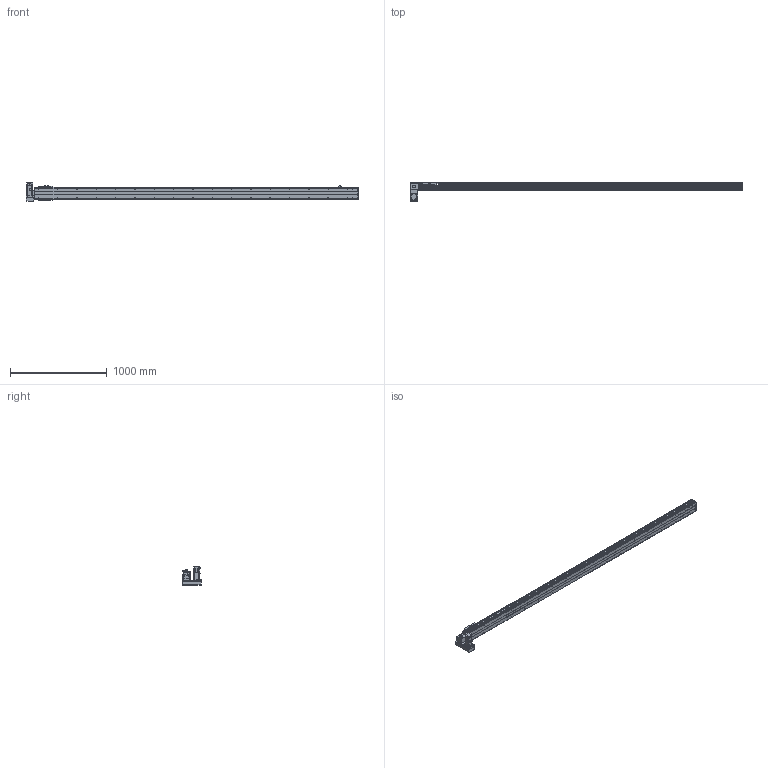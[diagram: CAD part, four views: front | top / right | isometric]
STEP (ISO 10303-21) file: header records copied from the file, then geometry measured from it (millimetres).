
FILE_DESCRIPTION( ( 'STEP AP214' ), '1' );
FILE_NAME( 'x:/temp/worker_6/temp/exporttempdir_3468_30_NGrfs/format_0/PBS120-P40-S3050-LD-T40-C1-N(0).stp', '2022-06-08T08:15:04', ( 'License CC BY-ND 4.0' ), ( 'CADENAS' ), ' ', 'PARTsolutions', ' ' );
FILE_SCHEMA( ( 'AUTOMOTIVE_DESIGN { 1 0 10303 214 1 1 1 1 }' ) );
Length unit declared in the file: millimetre
Products named in the file (7): PBS120-P40-S3050-LD-T40-C1-N(0); _PBS120-S3050()_body; _PBS120T-LD_motors; _T40-p1; _PBS120_sliser; _PBS120_plant; _PBS120_sensor
Assembly tree (8 placements, depth 2):
  PBS120-P40-S3050-LD-T40-C1-N(0)
    _PBS120-S3050()_body
    _PBS120T-LD_motors
    _T40-p1
    _PBS120_sliser
    _PBS120_plant
    _PBS120_sensor  x3
Bounding box: 3436 x 196 x 189.7 mm (x, y, z)
Volume: 12633735.5 mm3; surface area: 2636138.2 mm2
Topology: 8 solids, 8 shells, 888 faces, 2256 edges, 1447 vertices
Faces by surface type: plane 569, cylinder 249, cone 68, torus 2
Full cylindrical faces by diameter (mm): 2.459 x6, 3.242 x4, 4 x2, 4.134 x4, 4.5 x10, 4.917 x40, 5.5 x11, 6 x2, 6.6 x1, 7 x2, 8.5 x4, 9 x4, 12 x1, 14 x1, 30 x2, 40 x1, 50 x2
Entity records: 29004 total; most frequent: DIRECTION 3980, CARTESIAN_POINT 3857, ORIENTED_EDGE 3622, EDGE_CURVE 1811, AXIS2_PLACEMENT_3D 1376, VERTEX_POINT 1253, LINE 1228, VECTOR 1228
